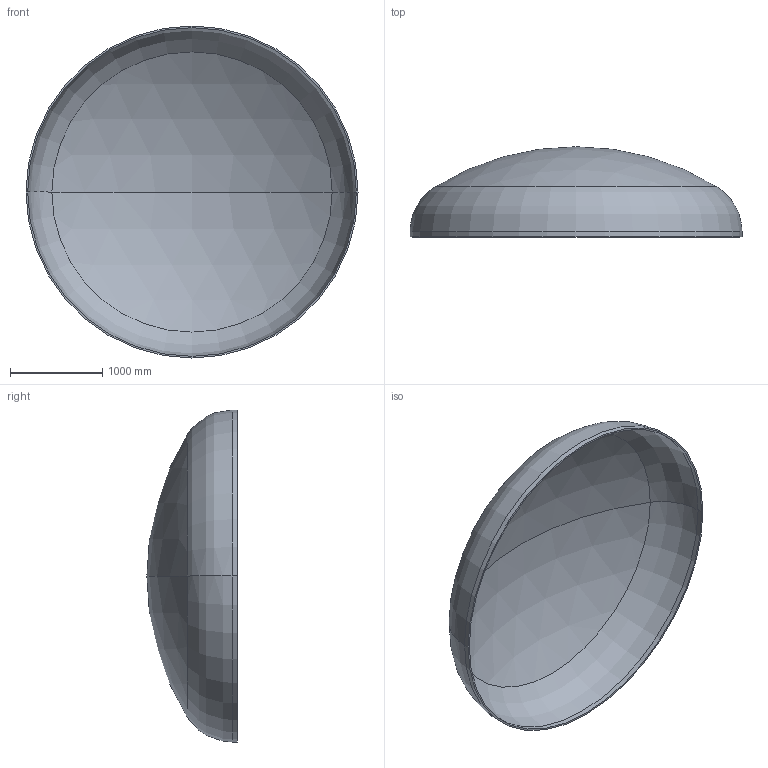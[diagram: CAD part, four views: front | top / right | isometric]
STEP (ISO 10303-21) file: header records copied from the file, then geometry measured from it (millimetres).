
FILE_DESCRIPTION (( 'STEP AP203' ), '1' );
FILE_NAME ('DIN 28013 Korbbogenform_-_Boden DIN 28013 - 3600 x 55 - I - s=18.step', '2016-07-01T20:09:50', ( '' ), ( '' ), 'SwSTEP 2.0', 'SolidWorks 2013', '' );
FILE_SCHEMA (( 'CONFIG_CONTROL_DESIGN' ));
Length unit declared in the file: millimetre
Products named in the file (1): DIN 28013 Korbbogenform_-_Boden DIN 28013 - 3600 x 55 - I - s=18
Bounding box: 3600 x 978.13 x 3600 mm (x, y, z)
Volume: 263284746.4 mm3; surface area: 29457085 mm2
Topology: 1 solids, 1 shells, 13 faces, 24 edges, 14 vertices
Faces by surface type: torus 4, cylinder 4, sphere 4, plane 1
Entity records: 407 total; most frequent: DIRECTION 72, CARTESIAN_POINT 52, ORIENTED_EDGE 48, AXIS2_PLACEMENT_3D 34, EDGE_CURVE 24, CIRCLE 20, EDGE_LOOP 14, VERTEX_POINT 14
